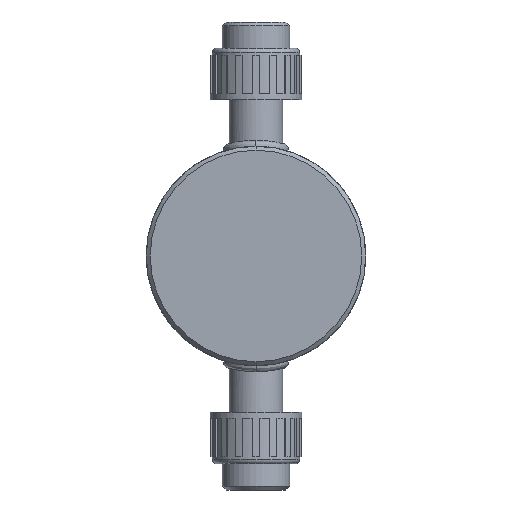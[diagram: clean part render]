
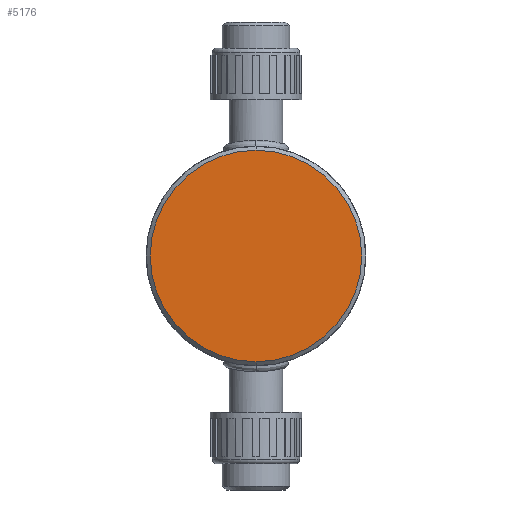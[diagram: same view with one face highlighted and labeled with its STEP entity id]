
A CAD part, front view. The second image highlights one B-rep face of the part: STEP entity #5176.
In plain terms, the highlighted planar face has unit normal (0, -1, 0).
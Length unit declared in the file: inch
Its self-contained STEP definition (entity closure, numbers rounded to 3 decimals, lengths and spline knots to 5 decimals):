
#930 = DIRECTION ( 'NONE',  ( 0., -1., 0. ) ) ;
#1499 = DIRECTION ( 'NONE',  ( 0., 0., 1. ) ) ;
#2762 = CARTESIAN_POINT ( 'NONE',  ( 0., 0., 0. ) ) ;
#2870 = AXIS2_PLACEMENT_3D ( 'NONE', #4059, #6728, #1499 ) ;
#3171 = PLANE ( 'NONE',  #2870 ) ;
#3639 = DIRECTION ( 'NONE',  ( 0., 0., 1. ) ) ;
#3678 = AXIS2_PLACEMENT_3D ( 'NONE', #2762, #8861, #3639 ) ;
#4059 = CARTESIAN_POINT ( 'NONE',  ( 0., 0., 0. ) ) ;
#4139 = CARTESIAN_POINT ( 'NONE',  ( 0., 0., 1.663 ) ) ;
#4610 = EDGE_CURVE ( 'NONE', #7458, #8294, #8961, .T. ) ;
#4789 = ORIENTED_EDGE ( 'NONE', *, *, #7026, .T. ) ;
#4857 = FACE_OUTER_BOUND ( 'NONE', #5925, .T. ) ;
#5176 = ADVANCED_FACE ( 'NONE', ( #4857 ), #3171, .F. ) ;
#5645 = ORIENTED_EDGE ( 'NONE', *, *, #4610, .T. ) ;
#5925 = EDGE_LOOP ( 'NONE', ( #4789, #5645 ) ) ;
#6138 = CARTESIAN_POINT ( 'NONE',  ( 0., 0., 0. ) ) ;
#6728 = DIRECTION ( 'NONE',  ( 0., 1., 0. ) ) ;
#7026 = EDGE_CURVE ( 'NONE', #8294, #7458, #8877, .T. ) ;
#7027 = DIRECTION ( 'NONE',  ( 0., 0., 1. ) ) ;
#7458 = VERTEX_POINT ( 'NONE', #9390 ) ;
#8294 = VERTEX_POINT ( 'NONE', #4139 ) ;
#8861 = DIRECTION ( 'NONE',  ( 0., -1., 0. ) ) ;
#8877 = CIRCLE ( 'NONE', #3678, 1.663 ) ;
#8961 = CIRCLE ( 'NONE', #10540, 1.663 ) ;
#9390 = CARTESIAN_POINT ( 'NONE',  ( 0., 0., -1.663 ) ) ;
#10540 = AXIS2_PLACEMENT_3D ( 'NONE', #6138, #930, #7027 ) ;
